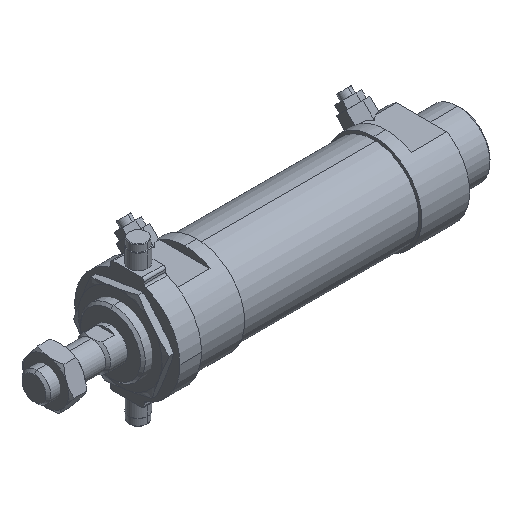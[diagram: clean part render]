
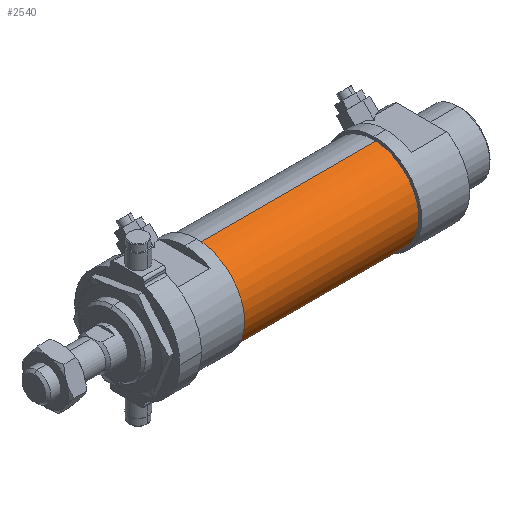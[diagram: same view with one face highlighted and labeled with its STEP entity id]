
A CAD part, isometric view. The second image highlights one B-rep face of the part: STEP entity #2540.
In plain terms, the highlighted cylindrical face has radius 18.8 mm (diameter 37.6 mm), a partial arc.
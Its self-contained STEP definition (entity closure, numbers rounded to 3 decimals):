
#154 = DIRECTION ( 'NONE',  ( 1., 0., 0. ) ) ;
#180 = CARTESIAN_POINT ( 'NONE',  ( 37., 0., 18.8 ) ) ;
#274 = DIRECTION ( 'NONE',  ( -1., 0., 0. ) ) ;
#449 = CIRCLE ( 'NONE', #1087, 18.8 ) ;
#451 = CARTESIAN_POINT ( 'NONE',  ( 37., 0., 0. ) ) ;
#678 = CARTESIAN_POINT ( 'NONE',  ( -37., 0., 18.8 ) ) ;
#784 = DIRECTION ( 'NONE',  ( 0., 0., -1. ) ) ;
#850 = FACE_OUTER_BOUND ( 'NONE', #5626, .T. ) ;
#1087 = AXIS2_PLACEMENT_3D ( 'NONE', #1735, #4246, #784 ) ;
#1735 = CARTESIAN_POINT ( 'NONE',  ( -37., 0., 0. ) ) ;
#1794 = VERTEX_POINT ( 'NONE', #5578 ) ;
#1811 = EDGE_CURVE ( 'NONE', #5605, #2311, #449, .T. ) ;
#2132 = VECTOR ( 'NONE', #3156, 1000. ) ;
#2311 = VERTEX_POINT ( 'NONE', #4234 ) ;
#2540 = ADVANCED_FACE ( 'NONE', ( #850 ), #2963, .T. ) ;
#2553 = EDGE_CURVE ( 'NONE', #1794, #2311, #2866, .T. ) ;
#2686 = VECTOR ( 'NONE', #274, 1000. ) ;
#2814 = CARTESIAN_POINT ( 'NONE',  ( 37., 0., 18.8 ) ) ;
#2866 = LINE ( 'NONE', #3736, #2686 ) ;
#2963 = CYLINDRICAL_SURFACE ( 'NONE', #4449, 18.8 ) ;
#3156 = DIRECTION ( 'NONE',  ( -1., 0., 0. ) ) ;
#3257 = DIRECTION ( 'NONE',  ( 0., 0., 1. ) ) ;
#3503 = DIRECTION ( 'NONE',  ( 0., 0., -1. ) ) ;
#3651 = ORIENTED_EDGE ( 'NONE', *, *, #4201, .F. ) ;
#3731 = CIRCLE ( 'NONE', #5528, 18.8 ) ;
#3736 = CARTESIAN_POINT ( 'NONE',  ( 37., 0., -18.8 ) ) ;
#3819 = DIRECTION ( 'NONE',  ( -1., 0., 0. ) ) ;
#4118 = LINE ( 'NONE', #180, #2132 ) ;
#4201 = EDGE_CURVE ( 'NONE', #5819, #1794, #3731, .T. ) ;
#4234 = CARTESIAN_POINT ( 'NONE',  ( -37., 0., -18.8 ) ) ;
#4246 = DIRECTION ( 'NONE',  ( 1., 0., 0. ) ) ;
#4449 = AXIS2_PLACEMENT_3D ( 'NONE', #451, #3819, #3257 ) ;
#4588 = ORIENTED_EDGE ( 'NONE', *, *, #2553, .F. ) ;
#4794 = ORIENTED_EDGE ( 'NONE', *, *, #1811, .T. ) ;
#4795 = ORIENTED_EDGE ( 'NONE', *, *, #4880, .T. ) ;
#4880 = EDGE_CURVE ( 'NONE', #5819, #5605, #4118, .T. ) ;
#5528 = AXIS2_PLACEMENT_3D ( 'NONE', #5624, #154, #3503 ) ;
#5578 = CARTESIAN_POINT ( 'NONE',  ( 37., 0., -18.8 ) ) ;
#5605 = VERTEX_POINT ( 'NONE', #678 ) ;
#5624 = CARTESIAN_POINT ( 'NONE',  ( 37., 0., 0. ) ) ;
#5626 = EDGE_LOOP ( 'NONE', ( #4588, #3651, #4795, #4794 ) ) ;
#5819 = VERTEX_POINT ( 'NONE', #2814 ) ;
